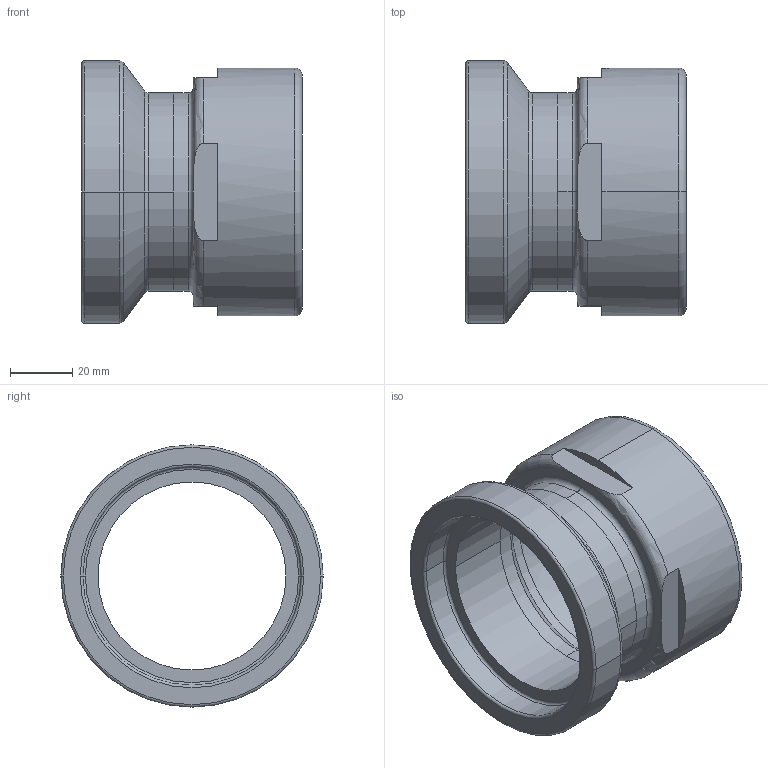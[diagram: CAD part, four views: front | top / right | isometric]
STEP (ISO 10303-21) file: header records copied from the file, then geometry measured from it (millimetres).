
FILE_DESCRIPTION (( 'STEP AP203' ), '1' );
FILE_NAME ('E22I-15I 2.5.STEP', '2021-10-26T19:20:29', ( '' ), ( '' ), 'SwSTEP 2.0', 'SolidWorks 2021', '' );
FILE_SCHEMA (( 'CONFIG_CONTROL_DESIGN' ));
Length unit declared in the file: inch
Products named in the file (3): E22I-15I 2.5; 22WBF2.5; E15WI2.5
Assembly tree (2 placements, depth 2):
  E22I-15I 2.5
    E15WI2.5
    22WBF2.5
Bounding box: 70.64 x 84 x 84 mm (x, y, z)
Volume: 77945.5 mm3; surface area: 38198 mm2
Topology: 2 solids, 2 shells, 55 faces, 118 edges, 70 vertices
Faces by surface type: torus 18, cylinder 16, plane 15, cone 6
Entity records: 2019 total; most frequent: CARTESIAN_POINT 464, DIRECTION 306, ORIENTED_EDGE 236, AXIS2_PLACEMENT_3D 136, EDGE_CURVE 118, CIRCLE 76, VERTEX_POINT 70, EDGE_LOOP 62
